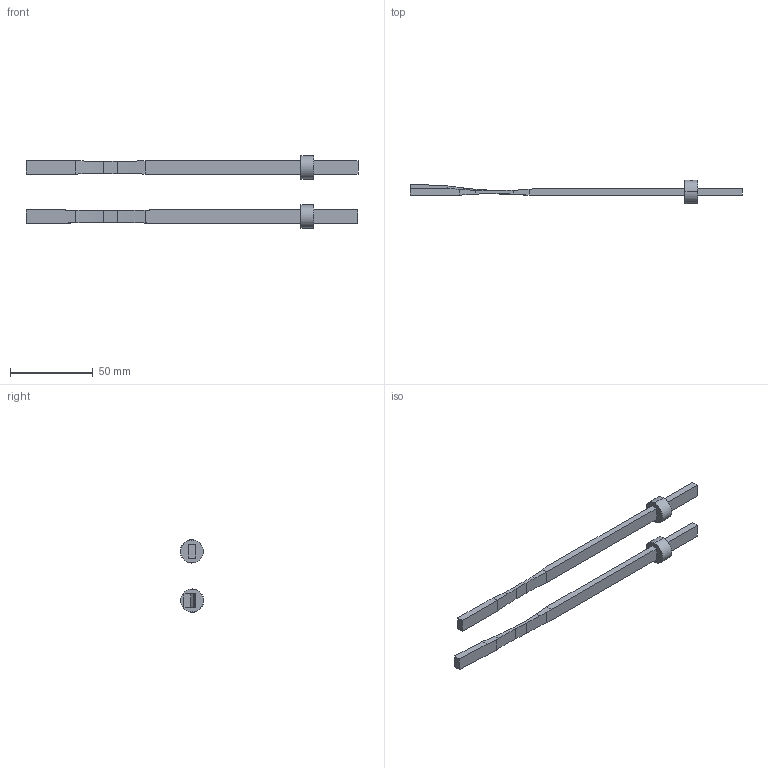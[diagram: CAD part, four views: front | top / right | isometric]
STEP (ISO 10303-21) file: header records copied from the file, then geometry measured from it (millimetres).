
FILE_DESCRIPTION (( 'STEP AP214' ), '1' );
FILE_NAME ('PF084200WB.STEP', '2013-07-26T14:29:09', ( '' ), ( '' ), 'SwSTEP 2.0', 'SolidWorks 2011', '' );
FILE_SCHEMA (( 'AUTOMOTIVE_DESIGN' ));
Length unit declared in the file: millimetre
Products named in the file (5): PF084200WB; 8PF0842WB-00-RECTO-20130117; 9FP040814-20130117; 8PF0842WB-00-20130117; PF084200-WB-20130121-
Assembly tree (5 placements, depth 3):
  PF084200WB
    9FP040814-20130117
    8PF0842WB-00-20130117
    PF084200-WB-20130121-
      8PF0842WB-00-RECTO-20130117
      9FP040814-20130117
Bounding box: 200.01 x 14.1 x 43.61 mm (x, y, z)
Volume: 13530.6 mm3; surface area: 10931 mm2
Topology: 4 solids, 4 shells, 74 faces, 186 edges, 118 vertices
Faces by surface type: plane 40, cylinder 22, cone 12
Entity records: 2439 total; most frequent: CARTESIAN_POINT 426, DIRECTION 300, ORIENTED_EDGE 300, EDGE_CURVE 150, AXIS2_PLACEMENT_3D 103, VERTEX_POINT 97, LINE 94, VECTOR 94
